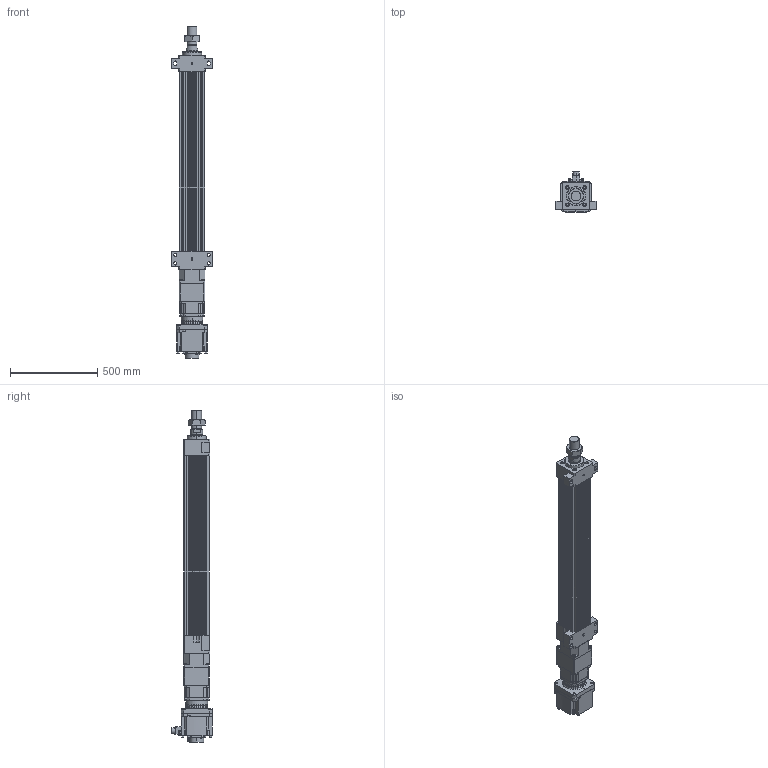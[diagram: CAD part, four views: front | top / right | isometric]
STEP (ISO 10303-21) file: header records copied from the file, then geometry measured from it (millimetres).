
FILE_DESCRIPTION (( 'STEP AP203' ), '1' );
FILE_NAME ('HES150NS(HS)-S750-W035G00-M-FFB.STEP', '2023-02-01T03:24:00', ( 'tms' ), ( '' ), 'SwSTEP 2.0', 'SolidWorks 2013', '' );
FILE_SCHEMA (( 'CONFIG_CONTROL_DESIGN' ));
Length unit declared in the file: millimetre
Products named in the file (9): HES150-S750-G142-FFB; HES150 ROD M ST750; AB1421; M56X2.0P; P1301500001; HES150NS(HS)-S750-W035G00-M-FFB; P0403500801; HG-SR352; AB142-003[HG-SR352]
Assembly tree (8 placements, depth 3):
  HES150NS(HS)-S750-W035G00-M-FFB
    HES150-S750-G142-FFB
    HES150 ROD M ST750
    M56X2.0P
    AB142-003[HG-SR352]
      AB1421
      P1301500001
      P0403500801
    HG-SR352
Bounding box: 230 x 228.85 x 1897.5 mm (x, y, z)
Volume: 21360848.7 mm3; surface area: 2398661.5 mm2
Topology: 5 solids, 23 shells, 1522 faces, 3951 edges, 2569 vertices
Faces by surface type: cylinder 691, plane 599, cone 150, bspline 76, torus 6
Entity records: 55583 total; most frequent: CARTESIAN_POINT 16843, DIRECTION 8091, ORIENTED_EDGE 7808, EDGE_CURVE 3926, AXIS2_PLACEMENT_3D 3042, VERTEX_POINT 2569, LINE 2007, VECTOR 2007
